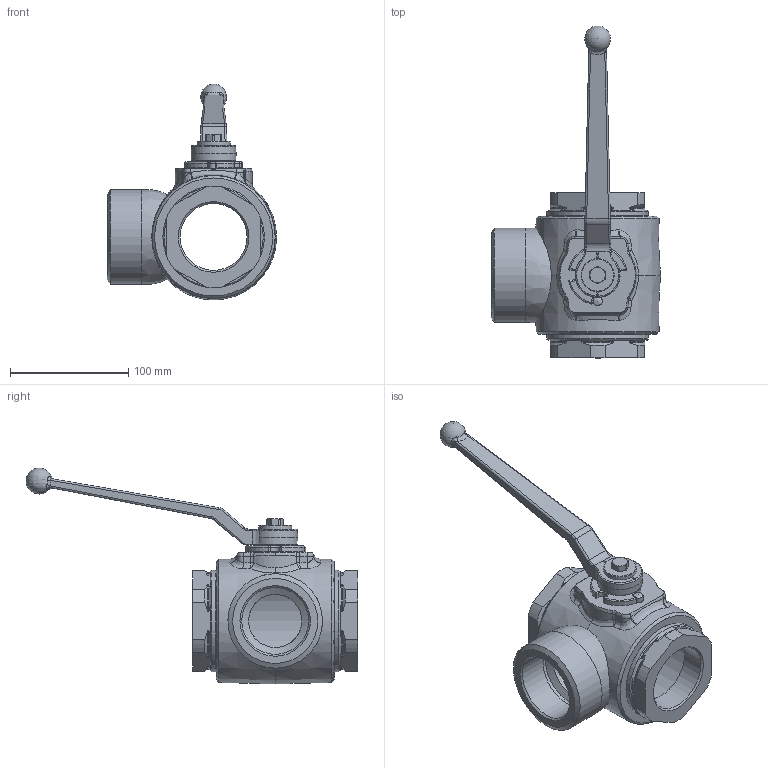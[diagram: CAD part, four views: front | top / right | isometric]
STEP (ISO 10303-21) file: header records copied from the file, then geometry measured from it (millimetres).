
FILE_DESCRIPTION( ( 'Unknown' ), '1' );
FILE_NAME( 'H:/PISTER/3D-MODELLE/SK3 stp/SK3 DN50 G2.stp', 'Unknown', ( 'Unknown' ), ( 'Unknown' ), 'PSStep 14.0', 'Unknown', ' ' );
FILE_SCHEMA( ( 'AUTOMOTIVE_DESIGN { 1 0 10303 214 1 1 1 1 }' ) );
Length unit declared in the file: millimetre
Products named in the file (10): Assem1; 03-050-007-oa3; 04-050-074-oa4; 06-050-003-oa11; 09-17-001; 58-28740-01-oa12; Griff_SW17_; 58-0440-003; 58-0933-163; 01-050-008-oa13
Assembly tree (9 placements, depth 2):
  Assem1
    03-050-007-oa3
    04-050-074-oa4
    06-050-003-oa11
    09-17-001
    58-28740-01-oa12
    Griff_SW17_
    58-0440-003
    58-0933-163
    01-050-008-oa13
Bounding box: 143.35 x 280.92 x 182.85 mm (x, y, z)
Volume: 389268.2 mm3; surface area: 149024.5 mm2
Topology: 9 solids, 9 shells, 398 faces, 1013 edges, 629 vertices
Faces by surface type: cylinder 137, plane 121, bspline 45, cone 44, torus 35, sphere 16
Full cylindrical faces by diameter (mm): 6.8 x1, 7.98 x1, 8 x1, 9.2 x1, 24 x2, 28 x1, 32 x1, 45 x1, 56.656 x2, 56.66 x2, 62 x1, 80 x1, 80.3 x2, 80.35 x2, 86 x2, 100 x1
Entity records: 18551 total; most frequent: CARTESIAN_POINT 6199, DIRECTION 1892, ORIENTED_EDGE 1846, EDGE_CURVE 923, AXIS2_PLACEMENT_3D 780, VERTEX_POINT 603, EDGE_LOOP 475, FACE_OUTER_BOUND 430
